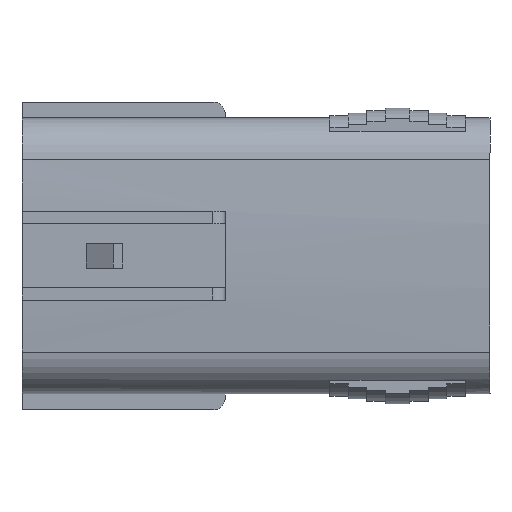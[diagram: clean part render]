
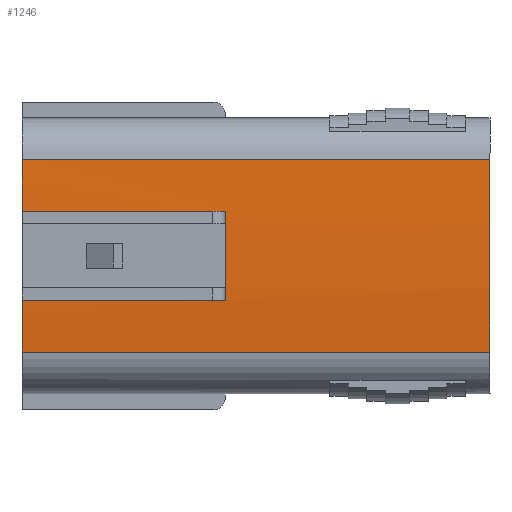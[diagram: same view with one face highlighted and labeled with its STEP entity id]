
A CAD part, top view. The second image highlights one B-rep face of the part: STEP entity #1246.
In plain terms, the highlighted cylindrical face has radius 92.7 mm (diameter 185.4 mm), a partial arc.
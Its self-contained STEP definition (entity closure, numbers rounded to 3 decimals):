
#321=AXIS2_PLACEMENT_3D('Circle Axis2P3D',#319,#320,$) ;
#368=AXIS2_PLACEMENT_3D('Circle Axis2P3D',#366,#367,$) ;
#1197=AXIS2_PLACEMENT_3D('Cylinder Axis2P3D',#1194,#1195,#1196) ;
#1208=AXIS2_PLACEMENT_3D('Circle Axis2P3D',#1206,#1207,$) ;
#1220=AXIS2_PLACEMENT_3D('Circle Axis2P3D',#1218,#1219,$) ;
#1225=AXIS2_PLACEMENT_3D('Circle Axis2P3D',#1223,#1224,$) ;
#176=CARTESIAN_POINT('Vertex',(16.5,0.,6.4)) ;
#316=CARTESIAN_POINT('Vertex',(0.,-7.812,6.07)) ;
#319=CARTESIAN_POINT('Axis2P3D Location',(0.,0.,-86.3)) ;
#323=CARTESIAN_POINT('Vertex',(0.,-3.6,6.33)) ;
#363=CARTESIAN_POINT('Vertex',(0.,3.6,6.33)) ;
#366=CARTESIAN_POINT('Axis2P3D Location',(0.,0.,-86.3)) ;
#370=CARTESIAN_POINT('Vertex',(0.,7.812,6.07)) ;
#1143=CARTESIAN_POINT('Line Origine',(19.,7.812,6.07)) ;
#1147=CARTESIAN_POINT('Vertex',(38.,7.812,6.07)) ;
#1194=CARTESIAN_POINT('Axis2P3D Location',(14.2,0.,-86.3)) ;
#1199=CARTESIAN_POINT('Line Origine',(14.2,-7.812,6.07)) ;
#1203=CARTESIAN_POINT('Vertex',(38.,-7.812,6.07)) ;
#1206=CARTESIAN_POINT('Axis2P3D Location',(38.,0.,-86.3)) ;
#1211=CARTESIAN_POINT('Line Origine',(14.2,3.6,6.33)) ;
#1215=CARTESIAN_POINT('Vertex',(16.5,3.6,6.33)) ;
#1218=CARTESIAN_POINT('Axis2P3D Location',(16.5,0.,-86.3)) ;
#1223=CARTESIAN_POINT('Axis2P3D Location',(16.5,0.,-86.3)) ;
#1227=CARTESIAN_POINT('Vertex',(16.5,-3.6,6.33)) ;
#1230=CARTESIAN_POINT('Line Origine',(14.2,-3.6,6.33)) ;
#320=DIRECTION('Axis2P3D Direction',(-1.,0.,-0.)) ;
#367=DIRECTION('Axis2P3D Direction',(-1.,0.,-0.)) ;
#1144=DIRECTION('Vector Direction',(1.,0.,0.)) ;
#1195=DIRECTION('Axis2P3D Direction',(-1.,0.,0.)) ;
#1196=DIRECTION('Axis2P3D XDirection',(0.,-0.121,0.993)) ;
#1200=DIRECTION('Vector Direction',(-1.,0.,0.)) ;
#1207=DIRECTION('Axis2P3D Direction',(-1.,0.,0.)) ;
#1212=DIRECTION('Vector Direction',(-1.,0.,0.)) ;
#1219=DIRECTION('Axis2P3D Direction',(-1.,0.,0.)) ;
#1224=DIRECTION('Axis2P3D Direction',(-1.,0.,0.)) ;
#1231=DIRECTION('Vector Direction',(-1.,0.,0.)) ;
#1145=VECTOR('Line Direction',#1144,1.) ;
#1201=VECTOR('Line Direction',#1200,1.) ;
#1213=VECTOR('Line Direction',#1212,1.) ;
#1232=VECTOR('Line Direction',#1231,1.) ;
#1236=ORIENTED_EDGE('',*,*,#325,.F.) ;
#1237=ORIENTED_EDGE('',*,*,#1205,.F.) ;
#1238=ORIENTED_EDGE('',*,*,#1210,.F.) ;
#1239=ORIENTED_EDGE('',*,*,#1149,.T.) ;
#1240=ORIENTED_EDGE('',*,*,#372,.F.) ;
#1241=ORIENTED_EDGE('',*,*,#1217,.T.) ;
#1242=ORIENTED_EDGE('',*,*,#1222,.T.) ;
#1243=ORIENTED_EDGE('',*,*,#1229,.T.) ;
#1244=ORIENTED_EDGE('',*,*,#1234,.F.) ;
#1246=ADVANCED_FACE('\X2\FF8EFF9EFF83FF9EFF68FF70\X0\.7',(#1245),#1198,.T.) ;
#322=CIRCLE('generated circle',#321,92.7) ;
#369=CIRCLE('generated circle',#368,92.7) ;
#1209=CIRCLE('generated circle',#1208,92.7) ;
#1221=CIRCLE('generated circle',#1220,92.7) ;
#1226=CIRCLE('generated circle',#1225,92.7) ;
#1198=CYLINDRICAL_SURFACE('generated cylinder',#1197,92.7) ;
#325=EDGE_CURVE('',#317,#324,#322,.T.) ;
#372=EDGE_CURVE('',#364,#371,#369,.T.) ;
#1149=EDGE_CURVE('',#1148,#371,#1146,.F.) ;
#1205=EDGE_CURVE('',#1204,#317,#1202,.T.) ;
#1210=EDGE_CURVE('',#1148,#1204,#1209,.F.) ;
#1217=EDGE_CURVE('',#364,#1216,#1214,.F.) ;
#1222=EDGE_CURVE('',#1216,#177,#1221,.F.) ;
#1229=EDGE_CURVE('',#177,#1228,#1226,.F.) ;
#1234=EDGE_CURVE('',#324,#1228,#1233,.F.) ;
#1235=EDGE_LOOP('',(#1236,#1237,#1238,#1239,#1240,#1241,#1242,#1243,#1244)) ;
#1245=FACE_OUTER_BOUND('',#1235,.T.) ;
#1146=LINE('Line',#1143,#1145) ;
#1202=LINE('Line',#1199,#1201) ;
#1214=LINE('Line',#1211,#1213) ;
#1233=LINE('Line',#1230,#1232) ;
#177=VERTEX_POINT('',#176) ;
#317=VERTEX_POINT('',#316) ;
#324=VERTEX_POINT('',#323) ;
#364=VERTEX_POINT('',#363) ;
#371=VERTEX_POINT('',#370) ;
#1148=VERTEX_POINT('',#1147) ;
#1204=VERTEX_POINT('',#1203) ;
#1216=VERTEX_POINT('',#1215) ;
#1228=VERTEX_POINT('',#1227) ;
